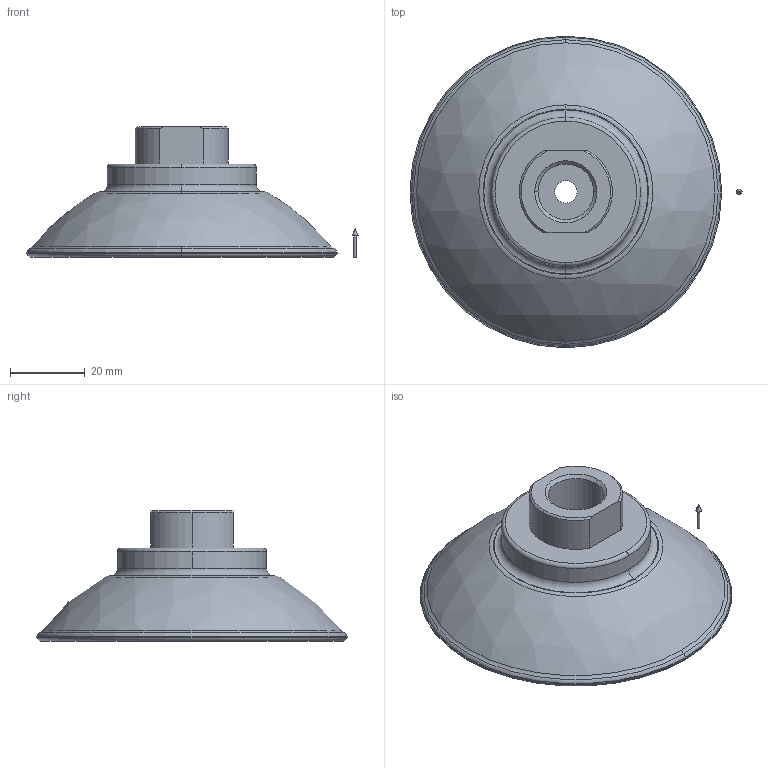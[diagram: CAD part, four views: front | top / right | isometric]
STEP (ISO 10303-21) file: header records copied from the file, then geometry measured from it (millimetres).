
FILE_DESCRIPTION(('STEP AP214'),'1');
FILE_NAME('10_01_01_10514.stp','2020-10-24T00:24:56',('TraceParts'),('TraceParts S.A.'),'Spatial InterOp 3D',' ',' ');
FILE_SCHEMA(('AUTOMOTIVE_DESIGN { 1 0 10303 214 1 1 1 1 }'));
Length unit declared in the file: millimetre
Products named in the file (1): 10_01_01_10514_1
Bounding box: 89.06 x 83.6 x 35 mm (x, y, z)
Volume: 46983.7 mm3; surface area: 17763.4 mm2
Topology: 2 solids, 2 shells, 114 faces, 279 edges, 178 vertices
Faces by surface type: torus 48, cylinder 32, cone 18, plane 11, sphere 5
Entity records: 4392 total; most frequent: DIRECTION 724, CARTESIAN_POINT 579, ORIENTED_EDGE 554, AXIS2_PLACEMENT_3D 335, EDGE_CURVE 277, CIRCLE 219, VERTEX_POINT 178, EDGE_LOOP 127
